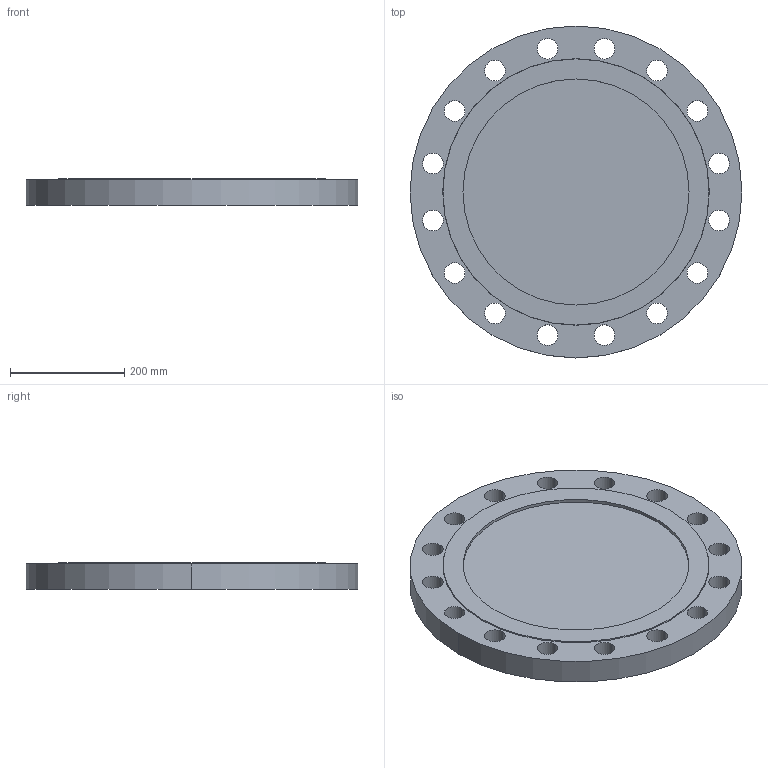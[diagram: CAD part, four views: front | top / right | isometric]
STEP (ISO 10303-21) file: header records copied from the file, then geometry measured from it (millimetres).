
FILE_DESCRIPTION (( 'STEP AP214' ), '1' );
FILE_NAME ('PN40 DN350 Type 05 - Type G Face.STEP', '2019-01-05T21:55:20', ( '' ), ( '' ), 'SwSTEP 2.0', 'SolidWorks 2019', '' );
FILE_SCHEMA (( 'AUTOMOTIVE_DESIGN' ));
Length unit declared in the file: millimetre
Products named in the file (1): PN40 DN350 Type 05 - Type G Face
Bounding box: 580 x 580 x 46 mm (x, y, z)
Volume: 10574746 mm3; surface area: 664916.4 mm2
Topology: 1 solids, 1 shells, 42 faces, 114 edges, 76 vertices
Faces by surface type: cylinder 36, plane 4, cone 2
Entity records: 1472 total; most frequent: DIRECTION 276, CARTESIAN_POINT 233, ORIENTED_EDGE 228, AXIS2_PLACEMENT_3D 119, EDGE_CURVE 114, CIRCLE 76, VERTEX_POINT 76, EDGE_LOOP 76
